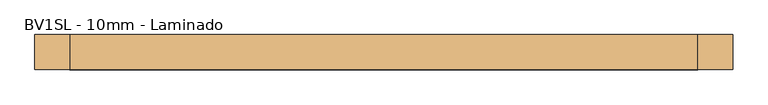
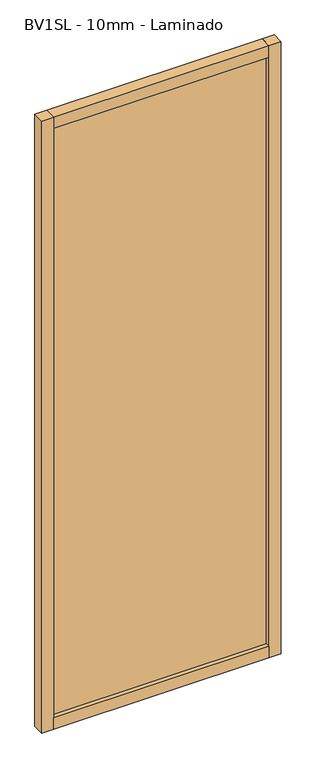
"""IFC4 building model written with IfcOpenShell, lengths in millimetres: door geometry, Mobiliário_Mobiliário de Escritório_Painel Vidro Simples - BVST e BVSL (Completo)_Marelli : BV1SL - 10mm - Laminado."""

from ifc_helpers import new_model, si_unit, frame, origin, origin_with_axes, place, context, project, spatial, polyline, outline, extrude, source, transform, mapped, element, save


def bv1sl_10mm_laminado_7e01d13e(model_context):
    return source(origin(), model_context, "Body", "SweptSolid", [
        extrude(outline(polyline([(25.0, 0.0), (-25.0, 0.0), (-25.0, 50.0), (-5.0, 50.0), (-5.0, 30.0), (5.0, 30.0), (5.0, 50.0), (25.0, 50.0), (25.0, 0.0)])), frame((-450.0, 0.0, 0.0), z_axis=(1.0, 0.0, 0.0), x_axis=(0.0, 1.0, 0.0)), (0.0, 0.0, 1.0), 900.0),
        extrude(outline(polyline([(-500.0, -25.0), (-500.0, 25.0), (-450.0, 25.0), (-450.0, -25.0), (-500.0, -25.0)])), origin_with_axes(), (0.0, 0.0, 1.0), 2700.0),
        extrude(outline(polyline([(500.0, -25.0), (450.0, -25.0), (450.0, 25.0), (500.0, 25.0), (500.0, -25.0)])), origin_with_axes(), (0.0, 0.0, 1.0), 2700.0),
        extrude(outline(polyline([(450.0, 5.0), (450.0, -5.0), (-450.0, -5.0), (-450.0, 5.0), (450.0, 5.0)])), frame((0.0, 0.0, 30.0), z_axis=(0.0, 0.0, 1.0), x_axis=(1.0, 0.0, 0.0)), (0.0, 0.0, 1.0), 2640.0),
        extrude(outline(polyline([(25.0, 2700.0), (25.0, 2650.0), (5.0, 2650.0), (5.0, 2670.0), (-5.0, 2670.0), (-5.0, 2650.0), (-25.0, 2650.0), (-25.0, 2700.0), (25.0, 2700.0)])), frame((-450.0, 0.0, 0.0), z_axis=(1.0, 0.0, 0.0), x_axis=(0.0, 1.0, 0.0)), (0.0, 0.0, 1.0), 900.0),
    ])


if __name__ == "__main__":
    model = new_model("IFC4")
    model_context = context("Model", 3, world=origin())
    ifc_project = project(units=[si_unit("LENGTHUNIT", "METRE", prefix="MILLI")], contexts=[model_context])
    site = spatial("IfcSite", under=ifc_project)
    building = spatial("IfcBuilding", under=site)
    placement = place(None, origin())
    bv1sl_10mm_laminado_shape = bv1sl_10mm_laminado_7e01d13e(model_context)
    element("IfcDoor", 1, ObjectType="Mobiliário_Mobiliário de Escritório_Painel Vidro Simples - BVST e BVSL (Completo)_Marelli : BV1SL - 10mm - Laminado", at=placement, inside=building, context=model_context, shape_type="MappedRepresentation", body=[
        mapped(bv1sl_10mm_laminado_shape, transform((0.0, 0.0, 0.0), x_axis=(1.0, 0.0, 0.0), y_axis=(0.0, 1.0, 0.0), z_axis=(0.0, 0.0, 1.0))),
    ])
    save(model, "model.ifc")
